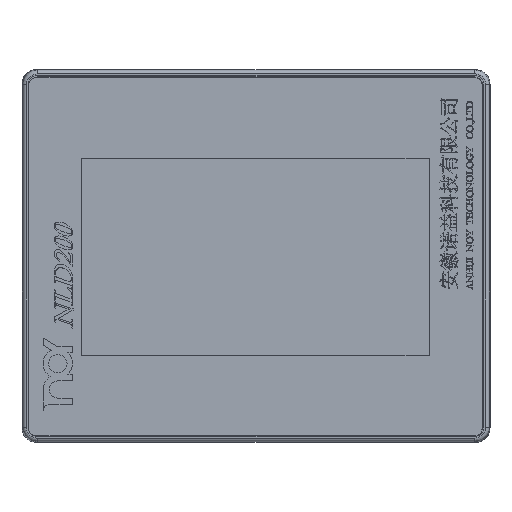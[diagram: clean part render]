
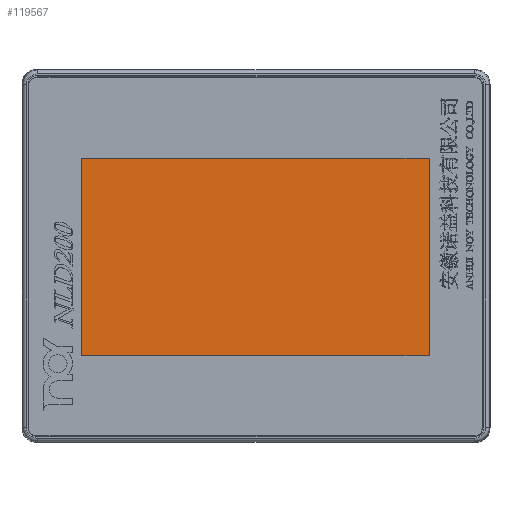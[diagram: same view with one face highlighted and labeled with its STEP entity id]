
A CAD part, top view. The second image highlights one B-rep face of the part: STEP entity #119567.
In plain terms, the highlighted planar face has unit normal (0, 0, 1).
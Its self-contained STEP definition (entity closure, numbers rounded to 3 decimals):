
#7176 = CARTESIAN_POINT ( 'NONE',  ( -59.675, 27.45, -0.32 ) ) ;
#17395 = DIRECTION ( 'NONE',  ( -1., 0., 0. ) ) ;
#19990 = CARTESIAN_POINT ( 'NONE',  ( -47.875, -27.45, -0.32 ) ) ;
#20130 = LINE ( 'NONE', #7176, #39812 ) ;
#22481 = ORIENTED_EDGE ( 'NONE', *, *, #140935, .F. ) ;
#28070 = VERTEX_POINT ( 'NONE', #30464 ) ;
#30464 = CARTESIAN_POINT ( 'NONE',  ( 47.875, 27.45, -0.32 ) ) ;
#35796 = AXIS2_PLACEMENT_3D ( 'NONE', #47553, #93865, #47045 ) ;
#39438 = DIRECTION ( 'NONE',  ( 0., -1., 0. ) ) ;
#39812 = VECTOR ( 'NONE', #119981, 1000. ) ;
#42866 = VERTEX_POINT ( 'NONE', #126418 ) ;
#46124 = LINE ( 'NONE', #84910, #74793 ) ;
#47045 = DIRECTION ( 'NONE',  ( 1., 0., 0. ) ) ;
#47471 = EDGE_CURVE ( 'NONE', #78557, #28070, #20130, .T. ) ;
#47553 = CARTESIAN_POINT ( 'NONE',  ( -59.675, 46.675, -0.32 ) ) ;
#51768 = ORIENTED_EDGE ( 'NONE', *, *, #75005, .F. ) ;
#54382 = DIRECTION ( 'NONE',  ( 0., 1., 0. ) ) ;
#61907 = VECTOR ( 'NONE', #54382, 1000. ) ;
#74793 = VECTOR ( 'NONE', #39438, 1000. ) ;
#75005 = EDGE_CURVE ( 'NONE', #129028, #78557, #76238, .T. ) ;
#76238 = LINE ( 'NONE', #122634, #61907 ) ;
#78557 = VERTEX_POINT ( 'NONE', #112737 ) ;
#79754 = ORIENTED_EDGE ( 'NONE', *, *, #111769, .F. ) ;
#84910 = CARTESIAN_POINT ( 'NONE',  ( 47.875, 46.675, -0.32 ) ) ;
#93865 = DIRECTION ( 'NONE',  ( 0., 0., 1. ) ) ;
#97100 = VECTOR ( 'NONE', #17395, 1000. ) ;
#111769 = EDGE_CURVE ( 'NONE', #28070, #42866, #46124, .T. ) ;
#112737 = CARTESIAN_POINT ( 'NONE',  ( -47.875, 27.45, -0.32 ) ) ;
#113498 = ORIENTED_EDGE ( 'NONE', *, *, #47471, .F. ) ;
#115262 = PLANE ( 'NONE',  #35796 ) ;
#119567 = ADVANCED_FACE ( 'NONE', ( #131084 ), #115262, .T. ) ;
#119981 = DIRECTION ( 'NONE',  ( 1., 0., 0. ) ) ;
#122634 = CARTESIAN_POINT ( 'NONE',  ( -47.875, 46.675, -0.32 ) ) ;
#125948 = EDGE_LOOP ( 'NONE', ( #51768, #22481, #79754, #113498 ) ) ;
#126418 = CARTESIAN_POINT ( 'NONE',  ( 47.875, -27.45, -0.32 ) ) ;
#127503 = LINE ( 'NONE', #131209, #97100 ) ;
#129028 = VERTEX_POINT ( 'NONE', #19990 ) ;
#131084 = FACE_OUTER_BOUND ( 'NONE', #125948, .T. ) ;
#131209 = CARTESIAN_POINT ( 'NONE',  ( -59.675, -27.45, -0.32 ) ) ;
#140935 = EDGE_CURVE ( 'NONE', #42866, #129028, #127503, .T. ) ;
